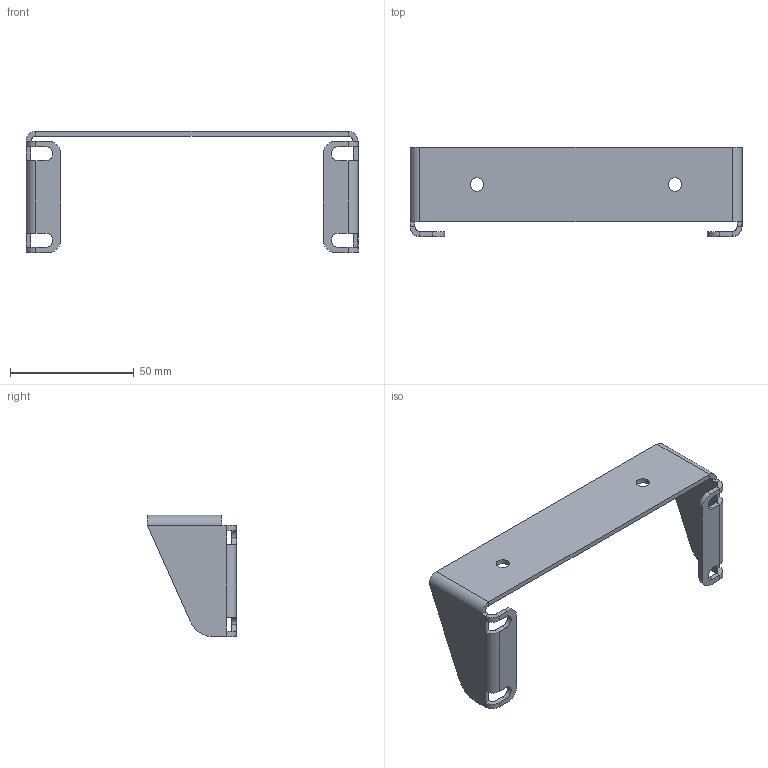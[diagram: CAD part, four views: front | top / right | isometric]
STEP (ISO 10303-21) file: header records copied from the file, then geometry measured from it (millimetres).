
FILE_DESCRIPTION (( 'STEP AP214' ), '1' );
FILE_NAME ('02155.00 Wandhalter DTL-xx10, SRL-12.STEP', '2020-11-11T09:01:14', ( '' ), ( '' ), 'SwSTEP 2.0', 'SolidWorks 2013', '' );
FILE_SCHEMA (( 'AUTOMOTIVE_DESIGN' ));
Length unit declared in the file: millimetre
Products named in the file (1): 02155.00 Wandhalter DTL-xx10, SRL-12
Bounding box: 134 x 36 x 49 mm (x, y, z)
Volume: 14080.9 mm3; surface area: 15472.7 mm2
Topology: 1 solids, 1 shells, 80 faces, 202 edges, 116 vertices
Faces by surface type: plane 48, cylinder 32
Entity records: 2402 total; most frequent: DIRECTION 428, ORIENTED_EDGE 404, CARTESIAN_POINT 399, EDGE_CURVE 202, AXIS2_PLACEMENT_3D 145, LINE 138, VECTOR 138, VERTEX_POINT 116
